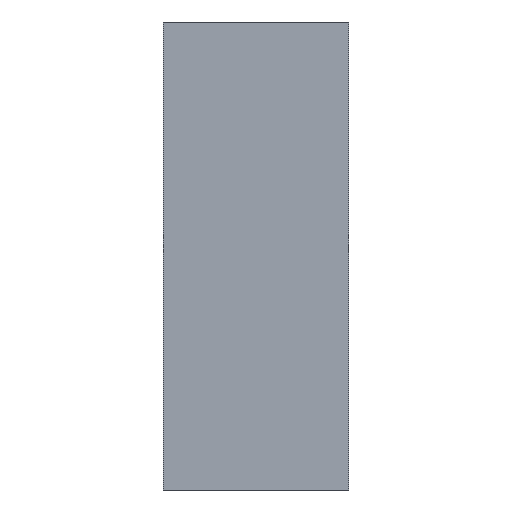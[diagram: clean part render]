
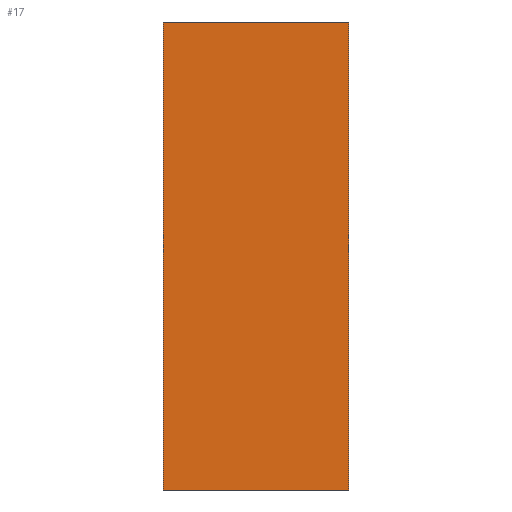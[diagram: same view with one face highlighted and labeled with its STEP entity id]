
A CAD part, left-side view. The second image highlights one B-rep face of the part: STEP entity #17.
In plain terms, the highlighted planar face has unit normal (-1, 0, 0).
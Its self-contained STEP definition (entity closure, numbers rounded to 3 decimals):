
#17 = ADVANCED_FACE('',(#18),#52,.F.);
#18 = FACE_BOUND('',#19,.F.);
#19 = EDGE_LOOP('',(#20,#30,#38,#46));
#20 = ORIENTED_EDGE('',*,*,#21,.F.);
#21 = EDGE_CURVE('',#22,#24,#26,.T.);
#22 = VERTEX_POINT('',#23);
#23 = CARTESIAN_POINT('',(14.2,82.2,6.));
#24 = VERTEX_POINT('',#25);
#25 = CARTESIAN_POINT('',(14.2,82.2,17.6));
#26 = LINE('',#27,#28);
#27 = CARTESIAN_POINT('',(14.2,82.2,6.));
#28 = VECTOR('',#29,1.);
#29 = DIRECTION('',(0.,0.,1.));
#30 = ORIENTED_EDGE('',*,*,#31,.T.);
#31 = EDGE_CURVE('',#22,#32,#34,.T.);
#32 = VERTEX_POINT('',#33);
#33 = CARTESIAN_POINT('',(14.2,86.8,6.));
#34 = LINE('',#35,#36);
#35 = CARTESIAN_POINT('',(14.2,82.2,6.));
#36 = VECTOR('',#37,1.);
#37 = DIRECTION('',(-0.,1.,0.));
#38 = ORIENTED_EDGE('',*,*,#39,.T.);
#39 = EDGE_CURVE('',#32,#40,#42,.T.);
#40 = VERTEX_POINT('',#41);
#41 = CARTESIAN_POINT('',(14.2,86.8,17.6));
#42 = LINE('',#43,#44);
#43 = CARTESIAN_POINT('',(14.2,86.8,6.));
#44 = VECTOR('',#45,1.);
#45 = DIRECTION('',(0.,0.,1.));
#46 = ORIENTED_EDGE('',*,*,#47,.F.);
#47 = EDGE_CURVE('',#24,#40,#48,.T.);
#48 = LINE('',#49,#50);
#49 = CARTESIAN_POINT('',(14.2,82.2,17.6));
#50 = VECTOR('',#51,1.);
#51 = DIRECTION('',(-0.,1.,0.));
#52 = PLANE('',#53);
#53 = AXIS2_PLACEMENT_3D('',#54,#55,#56);
#54 = CARTESIAN_POINT('',(14.2,82.2,6.));
#55 = DIRECTION('',(1.,0.,-0.));
#56 = DIRECTION('',(0.,0.,1.));
